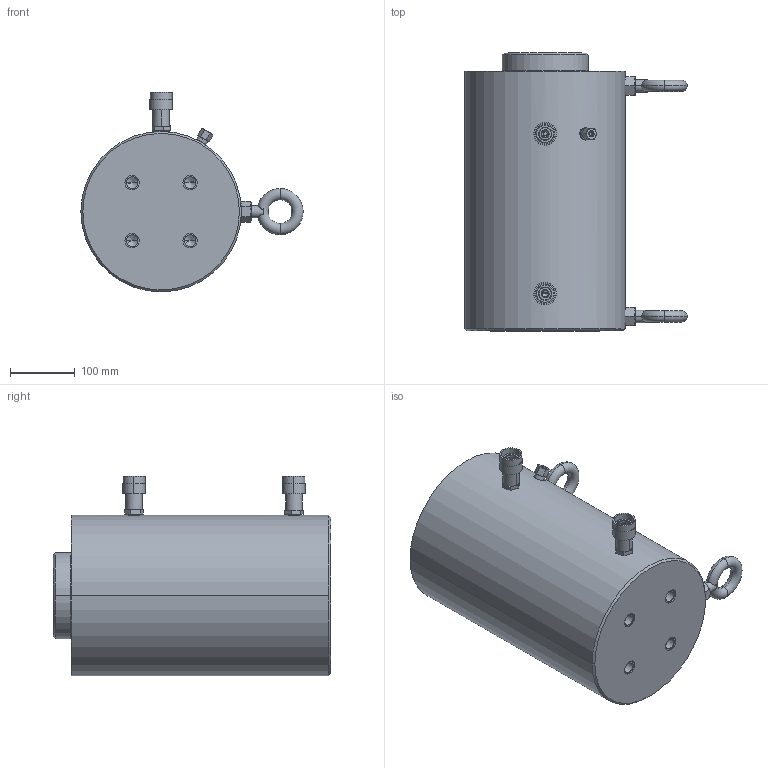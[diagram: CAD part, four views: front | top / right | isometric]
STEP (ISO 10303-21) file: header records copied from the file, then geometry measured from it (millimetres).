
FILE_DESCRIPTION((''),'2;1');
FILE_NAME('RR-2006','2015-10-13T',('mike.ward'),(''),'PRO/ENGINEER BY PARAMETRIC TECHNOLOGY CORPORATION, 2014200','PRO/ENGINEER BY PARAMETRIC TECHNOLOGY CORPORATION, 2014200','');
FILE_SCHEMA(('CONFIG_CONTROL_DESIGN'));
Length unit declared in the file: inch
Products named in the file (1): RR-2006
Bounding box: 343.93 x 430.1 x 309.27 mm (x, y, z)
Surface area: 873606.1 mm2 (no closed solid volume)
Topology: 0 solids, 29 shells, 340 faces, 911 edges, 596 vertices
Faces by surface type: cylinder 133, plane 113, cone 82, torus 12
Entity records: 11202 total; most frequent: CARTESIAN_POINT 2633, DIRECTION 1928, ORIENTED_EDGE 1546, EDGE_CURVE 899, AXIS2_PLACEMENT_3D 781, VERTEX_POINT 596, CIRCLE 441, EDGE_LOOP 403
